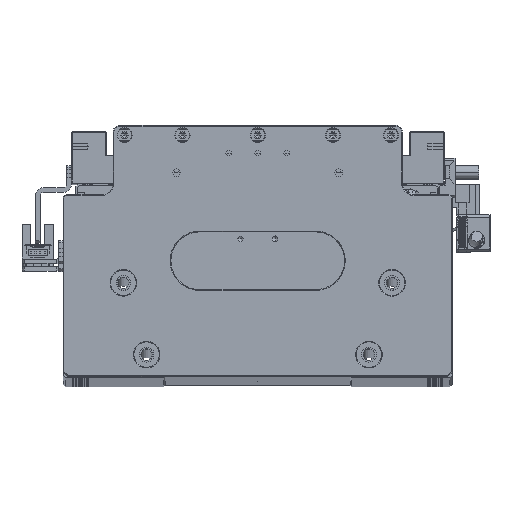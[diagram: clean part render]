
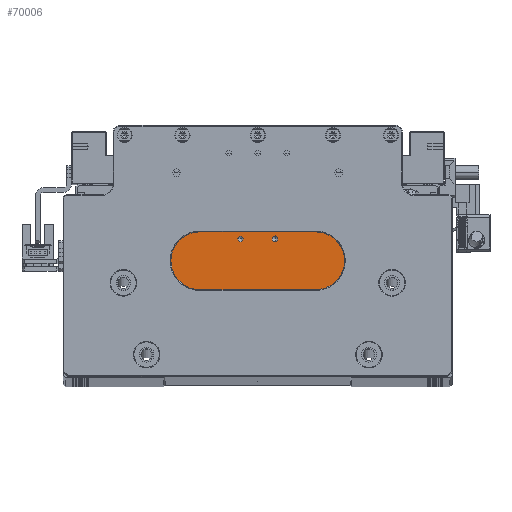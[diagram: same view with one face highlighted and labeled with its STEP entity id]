
A CAD part, top view. The second image highlights one B-rep face of the part: STEP entity #70006.
In plain terms, the highlighted planar face has unit normal (0, 0, 1).
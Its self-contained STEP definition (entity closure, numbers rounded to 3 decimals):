
#1907 = ORIENTED_EDGE ( 'NONE', *, *, #94872, .T. ) ;
#1985 = ORIENTED_EDGE ( 'NONE', *, *, #94299, .T. ) ;
#3686 = FACE_BOUND ( 'NONE', #86901, .T. ) ;
#4123 = CARTESIAN_POINT ( 'NONE',  ( 7.5, -8., 125. ) ) ;
#6029 = CARTESIAN_POINT ( 'NONE',  ( -8.75, -8., 125. ) ) ;
#6177 = AXIS2_PLACEMENT_3D ( 'NONE', #44644, #63994, #7670 ) ;
#6754 = LINE ( 'NONE', #107950, #28714 ) ;
#7085 = DIRECTION ( 'NONE',  ( -1., 0., 0. ) ) ;
#7421 = ORIENTED_EDGE ( 'NONE', *, *, #70783, .T. ) ;
#7670 = DIRECTION ( 'NONE',  ( 1., 0., 0. ) ) ;
#9455 = EDGE_CURVE ( 'NONE', #62590, #25202, #78876, .T. ) ;
#10772 = DIRECTION ( 'NONE',  ( 0., 0., -1. ) ) ;
#11823 = VECTOR ( 'NONE', #7085, 1000. ) ;
#12489 = LINE ( 'NONE', #96267, #31523 ) ;
#13553 = DIRECTION ( 'NONE',  ( 1., 0., 0. ) ) ;
#14727 = LINE ( 'NONE', #35778, #11823 ) ;
#15699 = CARTESIAN_POINT ( 'NONE',  ( 45., -40.2, 125. ) ) ;
#15831 = CARTESIAN_POINT ( 'NONE',  ( -33.5, 0., 125. ) ) ;
#17945 = EDGE_LOOP ( 'NONE', ( #26298, #1907, #73384, #7421, #49721, #18202, #1985, #33407 ) ) ;
#18202 = ORIENTED_EDGE ( 'NONE', *, *, #96683, .T. ) ;
#19595 = DIRECTION ( 'NONE',  ( 0., 0., -1. ) ) ;
#20943 = ORIENTED_EDGE ( 'NONE', *, *, #9455, .T. ) ;
#22364 = VECTOR ( 'NONE', #25556, 1000. ) ;
#23105 = DIRECTION ( 'NONE',  ( -1., 0., 0. ) ) ;
#25202 = VERTEX_POINT ( 'NONE', #56376 ) ;
#25556 = DIRECTION ( 'NONE',  ( 0., 1., 0. ) ) ;
#25794 = CIRCLE ( 'NONE', #69084, 1.25 ) ;
#26298 = ORIENTED_EDGE ( 'NONE', *, *, #39012, .T. ) ;
#26731 = VERTEX_POINT ( 'NONE', #73316 ) ;
#28714 = VECTOR ( 'NONE', #23105, 1000. ) ;
#29933 = CARTESIAN_POINT ( 'NONE',  ( 45., 0., 125. ) ) ;
#31175 = VERTEX_POINT ( 'NONE', #119410 ) ;
#31193 = VECTOR ( 'NONE', #109728, 1000. ) ;
#31523 = VECTOR ( 'NONE', #39854, 1000. ) ;
#33333 = DIRECTION ( 'NONE',  ( 0., 0., -1. ) ) ;
#33407 = ORIENTED_EDGE ( 'NONE', *, *, #71650, .T. ) ;
#35553 = PLANE ( 'NONE',  #6177 ) ;
#35778 = CARTESIAN_POINT ( 'NONE',  ( 0., -8., 125. ) ) ;
#39012 = EDGE_CURVE ( 'NONE', #61168, #82781, #12489, .T. ) ;
#39854 = DIRECTION ( 'NONE',  ( -1., 0., 0. ) ) ;
#40259 = DIRECTION ( 'NONE',  ( -1., 0., 0. ) ) ;
#40505 = CIRCLE ( 'NONE', #57224, 1.25 ) ;
#44495 = CARTESIAN_POINT ( 'NONE',  ( 33.5, 0., 125. ) ) ;
#44526 = AXIS2_PLACEMENT_3D ( 'NONE', #67112, #10772, #76565 ) ;
#44644 = CARTESIAN_POINT ( 'NONE',  ( 0., 0., 125. ) ) ;
#47436 = LINE ( 'NONE', #44495, #22364 ) ;
#48127 = VERTEX_POINT ( 'NONE', #58103 ) ;
#49721 = ORIENTED_EDGE ( 'NONE', *, *, #61638, .T. ) ;
#54998 = VECTOR ( 'NONE', #86363, 1000. ) ;
#56376 = CARTESIAN_POINT ( 'NONE',  ( -6.25, -8., 125. ) ) ;
#57224 = AXIS2_PLACEMENT_3D ( 'NONE', #4123, #69895, #13553 ) ;
#58103 = CARTESIAN_POINT ( 'NONE',  ( 45., -8., 125. ) ) ;
#59251 = LINE ( 'NONE', #15831, #31193 ) ;
#61168 = VERTEX_POINT ( 'NONE', #94383 ) ;
#61638 = EDGE_CURVE ( 'NONE', #48127, #100889, #14727, .T. ) ;
#62590 = VERTEX_POINT ( 'NONE', #6029 ) ;
#63994 = DIRECTION ( 'NONE',  ( 0., 0., 1. ) ) ;
#67112 = CARTESIAN_POINT ( 'NONE',  ( -7.5, -8., 125. ) ) ;
#67857 = CARTESIAN_POINT ( 'NONE',  ( -45., 0., 125. ) ) ;
#69084 = AXIS2_PLACEMENT_3D ( 'NONE', #89757, #33333, #99239 ) ;
#69362 = CARTESIAN_POINT ( 'NONE',  ( -45., -8., 125. ) ) ;
#69824 = VECTOR ( 'NONE', #86800, 1000. ) ;
#69895 = DIRECTION ( 'NONE',  ( 0., 0., -1. ) ) ;
#70006 = ADVANCED_FACE ( 'NONE', ( #100847, #3686, #103780 ), #35553, .T. ) ;
#70543 = VERTEX_POINT ( 'NONE', #117444 ) ;
#70783 = EDGE_CURVE ( 'NONE', #84899, #48127, #77076, .T. ) ;
#70879 = VECTOR ( 'NONE', #40259, 1000. ) ;
#71650 = EDGE_CURVE ( 'NONE', #70543, #61168, #59251, .T. ) ;
#73316 = CARTESIAN_POINT ( 'NONE',  ( 6.25, -8., 125. ) ) ;
#73384 = ORIENTED_EDGE ( 'NONE', *, *, #97049, .F. ) ;
#75977 = CARTESIAN_POINT ( 'NONE',  ( -7.5, -8., 125. ) ) ;
#76565 = DIRECTION ( 'NONE',  ( 1., 0., 0. ) ) ;
#77076 = LINE ( 'NONE', #29933, #54998 ) ;
#78727 = EDGE_CURVE ( 'NONE', #25202, #62590, #80274, .T. ) ;
#78876 = CIRCLE ( 'NONE', #44526, 1.25 ) ;
#80274 = CIRCLE ( 'NONE', #116923, 1.25 ) ;
#82781 = VERTEX_POINT ( 'NONE', #69362 ) ;
#84899 = VERTEX_POINT ( 'NONE', #15699 ) ;
#85450 = DIRECTION ( 'NONE',  ( 1., 0., 0. ) ) ;
#86363 = DIRECTION ( 'NONE',  ( 0., 1., 0. ) ) ;
#86800 = DIRECTION ( 'NONE',  ( 0., -1., 0. ) ) ;
#86901 = EDGE_LOOP ( 'NONE', ( #122019, #121581 ) ) ;
#88001 = VERTEX_POINT ( 'NONE', #102737 ) ;
#89757 = CARTESIAN_POINT ( 'NONE',  ( 7.5, -8., 125. ) ) ;
#90074 = EDGE_LOOP ( 'NONE', ( #110980, #20943 ) ) ;
#90764 = VERTEX_POINT ( 'NONE', #110555 ) ;
#93356 = EDGE_CURVE ( 'NONE', #90764, #26731, #40505, .T. ) ;
#94299 = EDGE_CURVE ( 'NONE', #31175, #70543, #6754, .T. ) ;
#94335 = EDGE_CURVE ( 'NONE', #26731, #90764, #25794, .T. ) ;
#94383 = CARTESIAN_POINT ( 'NONE',  ( -33.5, -8., 125. ) ) ;
#94872 = EDGE_CURVE ( 'NONE', #82781, #88001, #94902, .T. ) ;
#94902 = LINE ( 'NONE', #67857, #69824 ) ;
#96267 = CARTESIAN_POINT ( 'NONE',  ( 0., -8., 125. ) ) ;
#96679 = CARTESIAN_POINT ( 'NONE',  ( 45., -40.2, 125. ) ) ;
#96683 = EDGE_CURVE ( 'NONE', #100889, #31175, #47436, .T. ) ;
#97049 = EDGE_CURVE ( 'NONE', #84899, #88001, #118119, .T. ) ;
#99239 = DIRECTION ( 'NONE',  ( 1., 0., 0. ) ) ;
#100847 = FACE_OUTER_BOUND ( 'NONE', #17945, .T. ) ;
#100889 = VERTEX_POINT ( 'NONE', #105016 ) ;
#102737 = CARTESIAN_POINT ( 'NONE',  ( -45., -40.2, 125. ) ) ;
#103780 = FACE_BOUND ( 'NONE', #90074, .T. ) ;
#105016 = CARTESIAN_POINT ( 'NONE',  ( 33.5, -8., 125. ) ) ;
#107950 = CARTESIAN_POINT ( 'NONE',  ( 0., 0., 125. ) ) ;
#109728 = DIRECTION ( 'NONE',  ( 0., -1., 0. ) ) ;
#110555 = CARTESIAN_POINT ( 'NONE',  ( 8.75, -8., 125. ) ) ;
#110980 = ORIENTED_EDGE ( 'NONE', *, *, #78727, .T. ) ;
#116923 = AXIS2_PLACEMENT_3D ( 'NONE', #75977, #19595, #85450 ) ;
#117444 = CARTESIAN_POINT ( 'NONE',  ( -33.5, 0., 125. ) ) ;
#118119 = LINE ( 'NONE', #96679, #70879 ) ;
#119410 = CARTESIAN_POINT ( 'NONE',  ( 33.5, 0., 125. ) ) ;
#121581 = ORIENTED_EDGE ( 'NONE', *, *, #94335, .T. ) ;
#122019 = ORIENTED_EDGE ( 'NONE', *, *, #93356, .T. ) ;
